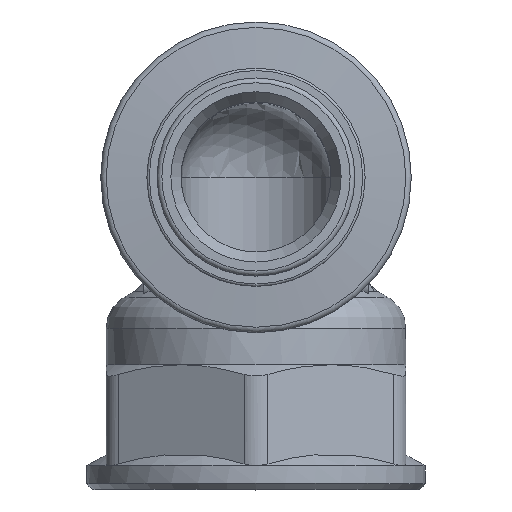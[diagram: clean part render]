
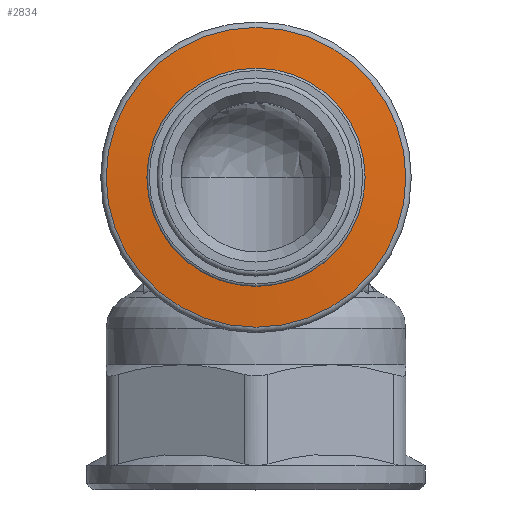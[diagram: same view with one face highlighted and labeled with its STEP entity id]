
A CAD part, top view. The second image highlights one B-rep face of the part: STEP entity #2834.
In plain terms, the highlighted conical face has half-angle 85 degrees and reference radius 10.628 mm.
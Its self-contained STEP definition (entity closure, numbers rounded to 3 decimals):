
#2834=ADVANCED_FACE('',(#5412,#5414),#5416,.T.);
#5412=FACE_OUTER_BOUND('',#5413,.T.);
#5413=EDGE_LOOP('',(#7909));
#5414=FACE_OUTER_BOUND('',#5415,.T.);
#5415=EDGE_LOOP('',(#7910));
#5416=CONICAL_SURFACE('',#5417,10.628,1.484);
#5417=AXIS2_PLACEMENT_3D('',#5418,#5419,#5420);
#5418=CARTESIAN_POINT('',(0.,0.,24.303));
#5419=DIRECTION('',(0.,0.,-1.));
#5420=DIRECTION('',(0.,-1.,0.));
#7909=ORIENTED_EDGE('',*,*,#8847,.T.);
#7910=ORIENTED_EDGE('',*,*,#8849,.T.);
#8847=EDGE_CURVE('',#10311,#10311,#10312,.T.);
#8849=EDGE_CURVE('',#10315,#10315,#10316,.F.);
#10311=VERTEX_POINT('',#15101);
#10312=CIRCLE('',#15102,12.494);
#10315=VERTEX_POINT('',#15111);
#10316=CIRCLE('',#15112,8.763);
#15101=CARTESIAN_POINT('',(0.,12.494,24.14));
#15102=AXIS2_PLACEMENT_3D('',#15103,#15104,#15105);
#15103=CARTESIAN_POINT('',(0.,0.,24.14));
#15104=DIRECTION('',(0.,0.,1.));
#15105=DIRECTION('',(0.,1.,0.));
#15111=CARTESIAN_POINT('',(0.,8.763,24.466));
#15112=AXIS2_PLACEMENT_3D('',#15113,#15114,#15115);
#15113=CARTESIAN_POINT('',(0.,0.,24.466));
#15114=DIRECTION('',(0.,0.,1.));
#15115=DIRECTION('',(0.,1.,0.));
